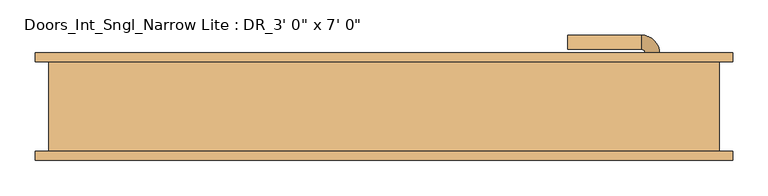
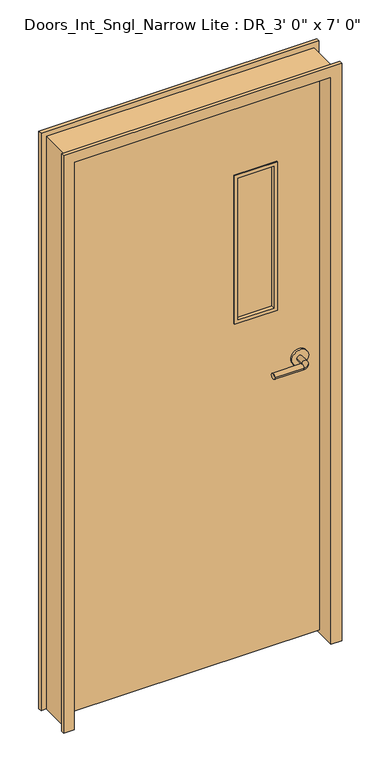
"""IFC4 building model written with IfcOpenShell, lengths in millimetres: door geometry."""

from ifc_helpers import new_model, si_unit, point, frame, frame_2d, origin, place, context, project, spatial, polyline, circle_curve, ellipse_curve, trimmed, segment, composite_curve, outline, extrude, faceted_brep, source, transform, mapped, element, save
from ifc_brep_helpers import plane_surface, cylinder_surface, revolved_surface, advanced_brep


def door_1c0cd56b(model_context):
    return source(origin(), model_context, "Body", "SolidModel", [
        advanced_brep(
        [(391.0, 46.1, 1066.8), (371.0, 46.1, 1066.8), (371.0, 76.1, 1066.8), (391.0, 76.1, 1066.8), (366.0, 81.1, 1066.8), (366.0, 101.1, 1066.8), (261.0, 101.1, 1066.8), (261.0, 81.1, 1066.8)],
        [
            (0, 1, circle_curve(frame((381.0, 46.1, 1066.8), z_axis=(0.0, -1.0, 0.0), x_axis=(-0.9999999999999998, 0.0, 0.0)), 10.0)),
            (1, 0, circle_curve(frame((381.0, 46.1, 1066.8), z_axis=(0.0, -1.0, 0.0), x_axis=(-0.9999999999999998, 0.0, 0.0)), 10.0)),
            (1, 2),
            (2, 3, circle_curve(frame((381.0, 76.1, 1066.8), z_axis=(0.0, -1.0, 0.0), x_axis=(-0.9999999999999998, 0.0, 0.0)), 10.0)),
            (3, 0),
            (3, 2, circle_curve(frame((381.0, 76.1, 1066.8), z_axis=(0.0, -1.0, 0.0), x_axis=(-0.9999999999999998, 0.0, 0.0)), 10.0)),
            (4, 5, circle_curve(frame((366.0, 91.1, 1066.8), z_axis=(0.9999999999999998, 0.0, 0.0), x_axis=(0.0, -0.9999999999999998, 0.0)), 10.0)),
            (5, 3, circle_curve(frame((366.0, 76.1, 1066.8), z_axis=(0.0, 0.0, -1.0), x_axis=(0.9999999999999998, 0.0, 0.0)), 25.0)),
            (2, 4, circle_curve(frame((366.0, 76.1, 1066.8), z_axis=(0.0, 0.0, 1.0), x_axis=(0.9999999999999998, 0.0, 0.0)), 5.0)),
            (5, 4, circle_curve(frame((366.0, 91.1, 1066.8), z_axis=(0.9999999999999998, 0.0, 0.0), x_axis=(0.0, -0.9999999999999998, 0.0)), 10.0)),
            (6, 7, circle_curve(frame((261.0, 91.1, 1066.8), z_axis=(-1.0, 0.0, 0.0), x_axis=(0.0, -0.9999999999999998, 0.0)), 10.0)),
            (7, 6, circle_curve(frame((261.0, 91.1, 1066.8), z_axis=(-1.0, 0.0, 0.0), x_axis=(0.0, -0.9999999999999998, 0.0)), 10.0)),
            (4, 7),
            (6, 5),
        ],
        [
            plane_surface(frame((381.0, 46.1, 1066.8), z_axis=(0.0, -1.0, 0.0), x_axis=(0.0, 0.0, 1.0))),
            cylinder_surface(frame((381.0, 46.1, 1066.8), z_axis=(0.0, -0.9999999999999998, 0.0), x_axis=(-0.9999999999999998, 0.0, 0.0)), 10.0),
            revolved_surface(trimmed(ellipse_curve(frame((381.0, 76.1, 1066.8), z_axis=(0.0, 0.9999999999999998, 0.0), x_axis=(-0.9999999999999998, 0.0, 0.0)), 10.0, 10.0), [point((391.0, 76.1, 1066.8))], [point((371.0, 76.1, 1066.8))], True, "CARTESIAN"), (366.0, 76.1, 1066.8), (0.0, 0.0, -1.0)),
            revolved_surface(trimmed(ellipse_curve(frame((381.0, 76.1, 1066.8), z_axis=(0.0, 0.9999999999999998, 0.0), x_axis=(-0.9999999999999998, 0.0, 0.0)), 10.0, 10.0), [point((371.0, 76.1, 1066.8))], [point((391.0, 76.1, 1066.8))], True, "CARTESIAN"), (366.0, 76.1, 1066.8), (0.0, 0.0, -1.0)),
            plane_surface(frame((261.0, 91.1, 1066.8), z_axis=(-1.0, 0.0, 0.0), x_axis=(0.0, 0.0, 1.0))),
            cylinder_surface(frame((366.0, 91.1, 1066.8), z_axis=(0.9999999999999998, 0.0, 0.0), x_axis=(0.0, -0.9999999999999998, 0.0)), 10.0),
        ],
        [
            (0, [[1, 2]]),
            (1, [[3, 4, 5, -2]]),
            (1, [[-5, 6, -3, -1]]),
            (2, [[7, 8, -4, 9]]),
            (3, [[10, -9, -6, -8]]),
            (4, [[11, 12]]),
            (5, [[13, -11, 14, -7]]),
            (5, [[-14, -12, -13, -10]]),
        ],
    ),
        extrude(outline(composite_curve([segment(trimmed(circle_curve(frame_2d((1066.8, 383.5)), 30.0), [point((1066.8, 413.5))], [point((1066.8, 353.5))], False, "CARTESIAN"), True, "CONTINUOUS"), segment(trimmed(circle_curve(frame_2d((1066.8, 383.5)), 30.0), [point((1066.8, 353.5))], [point((1066.8, 413.5))], False, "CARTESIAN"), True, "CONTINUOUS")], self_intersect=False)), frame((0.0, 38.1, 0.0), z_axis=(0.0, 1.0, 0.0), x_axis=(0.0, 0.0, 1.0)), (0.0, 0.0, 1.0), 8.0),
        advanced_brep(
        [(391.0, -14.35, 1066.8), (371.0, -14.35, 1066.8), (391.0, -44.35, 1066.8), (371.0, -44.35, 1066.8), (366.0, -49.35, 1066.8), (366.0, -69.35, 1066.8), (261.0, -69.35, 1066.8), (261.0, -49.35, 1066.8)],
        [
            (0, 1, circle_curve(frame((381.0, -14.35, 1066.8), z_axis=(0.0, 1.0, 0.0), x_axis=(-0.9999999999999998, 0.0, 0.0)), 10.0)),
            (1, 0, circle_curve(frame((381.0, -14.35, 1066.8), z_axis=(0.0, 1.0, 0.0), x_axis=(-0.9999999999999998, 0.0, 0.0)), 10.0)),
            (0, 2),
            (2, 3, circle_curve(frame((381.0, -44.35, 1066.8), z_axis=(0.0, 1.0, 0.0), x_axis=(-0.9999999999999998, 0.0, 0.0)), 10.0)),
            (3, 1),
            (3, 2, circle_curve(frame((381.0, -44.35, 1066.8), z_axis=(0.0, 1.0, 0.0), x_axis=(-0.9999999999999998, 0.0, 0.0)), 10.0)),
            (4, 3, circle_curve(frame((366.0, -44.35, 1066.8), z_axis=(0.0, 0.0, 1.0), x_axis=(0.9999999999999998, 0.0, 0.0)), 5.0)),
            (2, 5, circle_curve(frame((366.0, -44.35, 1066.8), z_axis=(0.0, 0.0, -1.0), x_axis=(0.9999999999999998, 0.0, 0.0)), 25.0)),
            (5, 4, circle_curve(frame((366.0, -59.35, 1066.8), z_axis=(0.9999999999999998, 0.0, 0.0), x_axis=(0.0, 0.9999999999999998, 0.0)), 10.0)),
            (4, 5, circle_curve(frame((366.0, -59.35, 1066.8), z_axis=(0.9999999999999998, 0.0, 0.0), x_axis=(0.0, 0.9999999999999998, 0.0)), 10.0)),
            (6, 7, circle_curve(frame((261.0, -59.35, 1066.8), z_axis=(-1.0, 0.0, 0.0), x_axis=(0.0, 0.9999999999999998, 0.0)), 10.0)),
            (7, 6, circle_curve(frame((261.0, -59.35, 1066.8), z_axis=(-1.0, 0.0, 0.0), x_axis=(0.0, 0.9999999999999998, 0.0)), 10.0)),
            (5, 6),
            (7, 4),
        ],
        [
            plane_surface(frame((381.0, -14.35, 1066.8), z_axis=(0.0, 1.0, 0.0), x_axis=(0.0, 0.0, 1.0))),
            cylinder_surface(frame((381.0, -14.35, 1066.8), z_axis=(0.0, 0.9999999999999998, 0.0), x_axis=(-0.9999999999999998, 0.0, 0.0)), 10.0),
            revolved_surface(trimmed(ellipse_curve(frame((381.0, -44.35, 1066.8), z_axis=(0.0, 0.9999999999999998, 0.0), x_axis=(-0.9999999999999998, 0.0, 0.0)), 10.0, 10.0), [point((391.0, -44.35, 1066.8))], [point((371.0, -44.35, 1066.8))], True, "CARTESIAN"), (366.0, -44.35, 1066.8), (0.0, 0.0, -1.0)),
            revolved_surface(trimmed(ellipse_curve(frame((381.0, -44.35, 1066.8), z_axis=(0.0, 0.9999999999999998, 0.0), x_axis=(-0.9999999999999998, 0.0, 0.0)), 10.0, 10.0), [point((371.0, -44.35, 1066.8))], [point((391.0, -44.35, 1066.8))], True, "CARTESIAN"), (366.0, -44.35, 1066.8), (0.0, 0.0, -1.0)),
            plane_surface(frame((261.0, -59.35, 1066.8), z_axis=(-1.0, 0.0, 0.0), x_axis=(0.0, 0.0, 1.0))),
            cylinder_surface(frame((366.0, -59.35, 1066.8), z_axis=(0.9999999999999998, 0.0, 0.0), x_axis=(0.0, 0.9999999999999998, 0.0)), 10.0),
        ],
        [
            (0, [[1, 2]]),
            (1, [[-1, 3, 4, 5]]),
            (1, [[-2, -5, 6, -3]]),
            (2, [[7, -4, 8, 9]]),
            (3, [[-8, -6, -7, 10]]),
            (4, [[11, 12]]),
            (5, [[-9, 13, -12, 14]]),
            (5, [[-10, -14, -11, -13]]),
        ],
    ),
        extrude(outline(composite_curve([segment(trimmed(circle_curve(frame_2d((1066.8, 383.5)), 30.0), [point((1066.8, 413.5))], [point((1066.8, 353.5))], False, "CARTESIAN"), True, "CONTINUOUS"), segment(trimmed(circle_curve(frame_2d((1066.8, 383.5)), 30.0), [point((1066.8, 353.5))], [point((1066.8, 413.5))], False, "CARTESIAN"), True, "CONTINUOUS")], self_intersect=False)), frame((0.0, -14.35, 0.0), z_axis=(0.0, 1.0, 0.0), x_axis=(0.0, 0.0, 1.0)), (0.0, 0.0, 1.0), 8.0),
        extrude(outline(polyline([(292.1, 3.175), (165.1, 3.175), (165.1, 28.575), (292.1, 28.575), (292.1, 3.175)])), frame((0.0, 0.0, 1282.7), z_axis=(0.0, 0.0, 1.0), x_axis=(1.0, 0.0, 0.0)), (0.0, 0.0, 1.0), 533.4),
        extrude(outline(polyline([(1270.0, 152.4), (1270.0, 304.8), (1828.8, 304.8), (1828.8, 152.4), (1270.0, 152.4)]), holes=[polyline([(1282.7, 165.1), (1816.1, 165.1), (1816.1, 292.1), (1282.7, 292.1), (1282.7, 165.1)])]), frame((0.0, -9.525, 0.0), z_axis=(0.0, 1.0, 0.0), x_axis=(0.0, 0.0, 1.0)), (0.0, 0.0, 1.0), 50.8),
        extrude(outline(polyline([(2133.6, 457.2), (2133.6, -457.2), (12.7, -457.2), (12.7, 457.2), (2133.6, 457.2)]), holes=[polyline([(1270.0, 152.4), (1828.8, 152.4), (1828.8, 304.8), (1270.0, 304.8), (1270.0, 152.4)])]), frame((0.0, -6.35, 0.0), z_axis=(0.0, 1.0, 0.0), x_axis=(0.0, 0.0, 1.0)), (0.0, 0.0, 1.0), 44.45),
        faceted_brep([(-457.2, -76.2, 0.0), (-495.3, -76.2, 0.0), (-495.3, -63.5, 0.0), (-476.25, -63.5, 0.0), (-476.25, 63.5, 0.0), (-495.3, 63.5, 0.0), (-495.3, 76.2, 0.0), (-457.2, 76.2, 0.0), (-457.2, -76.2, 2133.6), (457.2, -76.2, 2133.6), (457.2, -76.2, 0.0), (495.3, -76.2, 0.0), (495.3, -76.2, 2171.7), (-495.3, -76.2, 2171.7), (-495.3, -63.5, 2171.7), (495.3, -63.5, 2171.7), (495.3, -63.5, 0.0), (476.25, -63.5, 0.0), (476.25, -63.5, 2152.65), (-476.25, -63.5, 2152.65), (-476.25, 63.5, 2152.65), (476.25, 63.5, 2152.65), (476.25, 63.5, 0.0), (495.3, 63.5, 0.0), (495.3, 63.5, 2171.7), (-495.3, 63.5, 2171.7), (-495.3, 76.2, 2171.7), (495.3, 76.2, 2171.7), (495.3, 76.2, 0.0), (457.2, 76.2, 0.0), (457.2, 76.2, 2133.6), (-457.2, 76.2, 2133.6)], [[[0, 1, 2, 3, 4, 5, 6, 7]], [[1, 0, 8, 9, 10, 11, 12, 13]], [[2, 1, 13, 14]], [[3, 2, 14, 15, 16, 17, 18, 19]], [[4, 3, 19, 20]], [[5, 4, 20, 21, 22, 23, 24, 25]], [[6, 5, 25, 26]], [[7, 6, 26, 27, 28, 29, 30, 31]], [[0, 7, 31, 8]], [[9, 30, 29, 10]], [[10, 29, 28, 23, 22, 17, 16, 11]], [[15, 12, 11, 16]], [[27, 24, 23, 28]], [[21, 18, 17, 22]], [[20, 19, 18, 21]], [[8, 31, 30, 9]], [[14, 13, 12, 15]], [[26, 25, 24, 27]]]),
    ])


if __name__ == "__main__":
    model = new_model("IFC4")
    model_context = context("Model", 3, world=origin())
    ifc_project = project(units=[si_unit("LENGTHUNIT", "METRE", prefix="MILLI")], contexts=[model_context])
    site = spatial("IfcSite", under=ifc_project)
    building = spatial("IfcBuilding", under=site)
    placement = place(None, origin())
    door_shape = door_1c0cd56b(model_context)
    element("IfcDoor", 1, ObjectType="Doors_Int_Sngl_Narrow Lite : DR_3' 0\" x 7' 0\"", at=placement, inside=building, context=model_context, shape_type="MappedRepresentation", body=[
        mapped(door_shape, transform((0.0, 0.0, 0.0), x_axis=(1.0, 0.0, 0.0), y_axis=(0.0, 1.0, 0.0), z_axis=(0.0, 0.0, 1.0))),
    ])
    save(model, "model.ifc")
